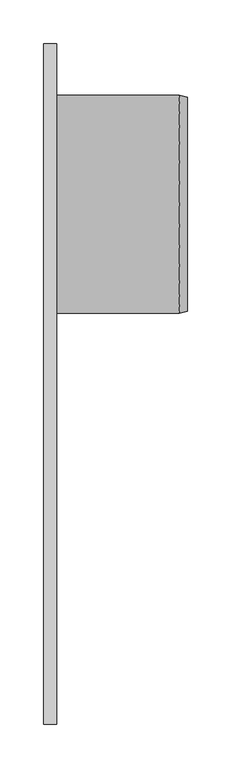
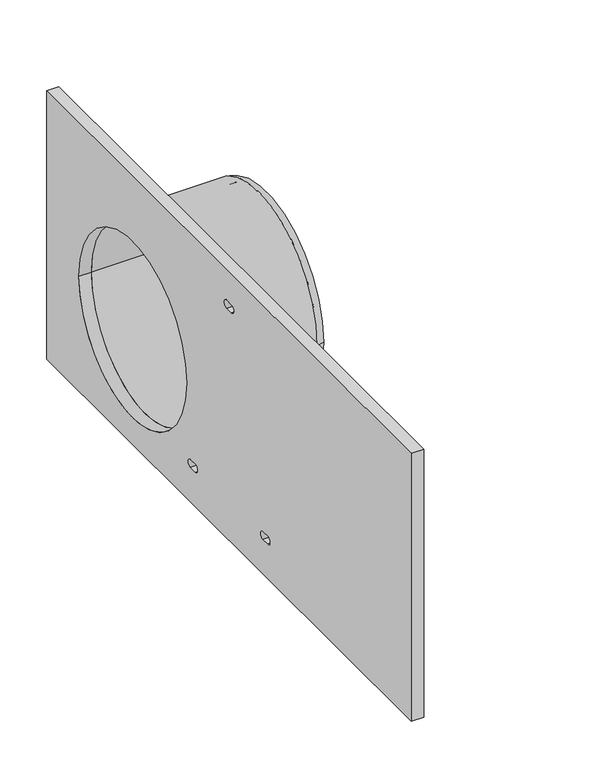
"""IFC4 building model written with IfcOpenShell, lengths in millimetres: proxy geometry, GRAF EcoBloc adaptor plate DN250 : GRAF EcoBloc adaptor plate DN250."""

from ifc_helpers import new_model, si_unit, point, frame, frame_2d, origin, place, context, project, spatial, polyline, circle_curve, trimmed, segment, composite_curve, outline, extrude, source, transform, mapped, element, save
from ifc_brep_helpers import plane_surface, cylinder_surface, revolved_surface, advanced_brep


def specialty_equipment_1e456aff(model_context):
    return source(origin(), model_context, "Body", "SolidModel", [
        extrude(outline(polyline([(-390.0, 350.0), (390.0, 350.0), (390.0, 0.0), (-390.0, 0.0), (-390.0, 350.0)]), holes=[composite_curve([segment(trimmed(circle_curve(frame_2d((206.0, 150.0)), 115.0), [point((321.0, 150.0))], [point((91.0, 150.0))], True, "CARTESIAN"), True, "CONTINUOUS"), segment(trimmed(circle_curve(frame_2d((206.0, 150.0)), 115.0), [point((91.0, 150.0))], [point((321.0, 150.0))], True, "CARTESIAN"), True, "CONTINUOUS")], self_intersect=False), composite_curve([segment(polyline([(5.0, 310.0), (-5.0, 310.0)]), True, "CONTINUOUS"), segment(trimmed(circle_curve(frame_2d((-5.0, 305.0)), 5.0), [point((-5.0, 310.0))], [point((-5.0, 300.0))], True, "CARTESIAN"), True, "CONTINUOUS"), segment(polyline([(-5.0, 300.0), (5.0, 300.0)]), True, "CONTINUOUS"), segment(trimmed(circle_curve(frame_2d((5.0, 305.0)), 5.0), [point((5.0, 300.0))], [point((5.0, 310.0))], True, "CARTESIAN"), True, "CONTINUOUS")], self_intersect=False), composite_curve([segment(polyline([(-72.5, 55.0), (-82.5, 55.0)]), True, "CONTINUOUS"), segment(trimmed(circle_curve(frame_2d((-82.5, 50.0)), 5.0), [point((-82.5, 55.0))], [point((-82.5, 45.0))], True, "CARTESIAN"), True, "CONTINUOUS"), segment(polyline([(-82.5, 45.0), (-72.5, 45.0)]), True, "CONTINUOUS"), segment(trimmed(circle_curve(frame_2d((-72.5, 50.0)), 5.0), [point((-72.5, 45.0))], [point((-72.5, 55.0))], True, "CARTESIAN"), True, "CONTINUOUS")], self_intersect=False), composite_curve([segment(polyline([(82.5, 55.0), (72.5, 55.0)]), True, "CONTINUOUS"), segment(trimmed(circle_curve(frame_2d((72.5, 50.0)), 5.0), [point((72.5, 55.0))], [point((72.5, 45.0))], True, "CARTESIAN"), True, "CONTINUOUS"), segment(polyline([(72.5, 45.0), (82.5, 45.0)]), True, "CONTINUOUS"), segment(trimmed(circle_curve(frame_2d((82.5, 50.0)), 5.0), [point((82.5, 45.0))], [point((82.5, 55.0))], True, "CARTESIAN"), True, "CONTINUOUS")], self_intersect=False)]), frame((-1157.5, 0.0, 0.0), z_axis=(1.0, 0.0, 0.0), x_axis=(0.0, 1.0, 0.0)), (0.0, 0.0, 1.0), 15.0),
        advanced_brep(
        [(-1001.5, 81.0, 150.0), (-1001.5, 331.0, 150.0), (-992.5, 328.5884573, 150.0), (-992.5, 83.4115427, 150.0), (-1142.5, 81.0, 150.0), (-1142.5, 331.0, 150.0), (-1142.5, 91.0, 150.0), (-1142.5, 321.0, 150.0), (-992.5, 91.0, 150.0), (-992.5, 321.0, 150.0)],
        [
            (0, 1, circle_curve(frame((-1001.5, 206.0, 150.0), z_axis=(1.0, 0.0, 0.0), x_axis=(0.0, 1.0, 0.0)), 125.0)),
            (1, 2),
            (2, 3, circle_curve(frame((-992.5, 206.0, 150.0), z_axis=(-1.0, 0.0, 0.0), x_axis=(0.0, 1.0, 0.0)), 122.5884573)),
            (3, 0),
            (1, 0, circle_curve(frame((-1001.5, 206.0, 150.0), z_axis=(1.0, 0.0, 0.0), x_axis=(0.0, 1.0, 0.0)), 125.0)),
            (3, 2, circle_curve(frame((-992.5, 206.0, 150.0), z_axis=(-1.0, 0.0, 0.0), x_axis=(0.0, 1.0, 0.0)), 122.5884573)),
            (4, 5, circle_curve(frame((-1142.5, 206.0, 150.0), z_axis=(1.0, 0.0, 0.0), x_axis=(0.0, 1.0, 0.0)), 125.0)),
            (5, 1),
            (0, 4),
            (5, 4, circle_curve(frame((-1142.5, 206.0, 150.0), z_axis=(1.0, 0.0, 0.0), x_axis=(0.0, 1.0, 0.0)), 125.0)),
            (6, 7, circle_curve(frame((-1142.5, 206.0, 150.0), z_axis=(1.0, 0.0, 0.0), x_axis=(0.0, 1.0, 0.0)), 115.0)),
            (7, 5),
            (4, 6),
            (7, 6, circle_curve(frame((-1142.5, 206.0, 150.0), z_axis=(1.0, 0.0, 0.0), x_axis=(0.0, 1.0, 0.0)), 115.0)),
            (8, 9, circle_curve(frame((-992.5, 206.0, 150.0), z_axis=(1.0, 0.0, 0.0), x_axis=(0.0, 1.0, 0.0)), 115.0)),
            (9, 7),
            (6, 8),
            (9, 8, circle_curve(frame((-992.5, 206.0, 150.0), z_axis=(1.0, 0.0, 0.0), x_axis=(0.0, 1.0, 0.0)), 115.0)),
            (2, 9),
            (8, 3),
        ],
        [
            revolved_surface(polyline([(-992.5, 328.5884573, 150.0), (-1001.5, 331.0, 150.0)]), (-992.5, 206.0, 150.0), (-1.0, 0.0, 0.0)),
            cylinder_surface(frame((-992.5, 206.0, 150.0), z_axis=(-1.0, 0.0, 0.0), x_axis=(0.0, 1.0, 0.0)), 125.0),
            plane_surface(frame((-1142.5, 206.0, 150.0), z_axis=(-1.0, 0.0, 0.0), x_axis=(0.0, 1.0, 0.0))),
            revolved_surface(polyline([(-1142.5, 321.0, 150.0), (-992.5, 321.0, 150.0)]), (-992.5, 206.0, 150.0), (-1.0, 0.0, 0.0)),
            plane_surface(frame((-992.5, 206.0, 150.0), z_axis=(1.0, 0.0, 0.0), x_axis=(0.0, 1.0, 0.0))),
        ],
        [
            (0, [[1, 2, 3, 4]]),
            (0, [[5, -4, 6, -2]]),
            (1, [[7, 8, -1, 9]]),
            (1, [[10, -9, -5, -8]]),
            (2, [[11, 12, -7, 13]]),
            (2, [[14, -13, -10, -12]]),
            (3, [[15, 16, -11, 17]]),
            (3, [[18, -17, -14, -16]]),
            (4, [[-3, 19, -15, 20]]),
            (4, [[-6, -20, -18, -19]]),
        ],
    ),
    ])


if __name__ == "__main__":
    model = new_model("IFC4")
    model_context = context("Model", 3, world=origin())
    ifc_project = project(units=[si_unit("LENGTHUNIT", "METRE", prefix="MILLI")], contexts=[model_context])
    site = spatial("IfcSite", under=ifc_project)
    building = spatial("IfcBuilding", under=site)
    placement = place(None, origin())
    specialty_equipment_shape = specialty_equipment_1e456aff(model_context)
    element("IfcBuildingElementProxy", 1, Name="GRAF EcoBloc adaptor plate DN250 : GRAF EcoBloc adaptor plate DN250", ObjectType="GRAF EcoBloc adaptor plate DN250 : GRAF EcoBloc adaptor plate DN250", at=placement, inside=building, context=model_context, shape_type="MappedRepresentation", body=[
        mapped(specialty_equipment_shape, transform((0.0, 0.0, 0.0), x_axis=(1.0, 0.0, 0.0), y_axis=(0.0, 1.0, 0.0), z_axis=(0.0, 0.0, 1.0))),
    ])
    save(model, "model.ifc")
